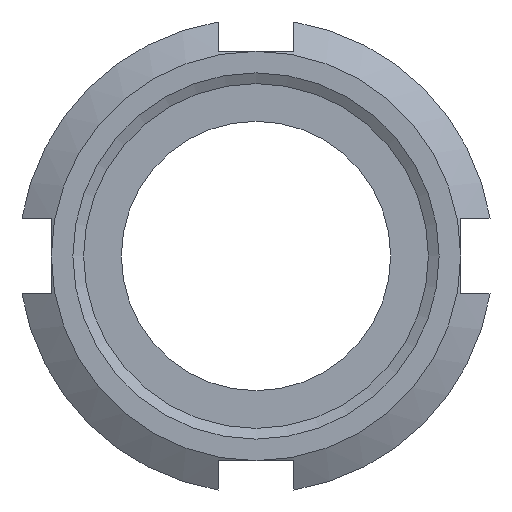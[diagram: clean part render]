
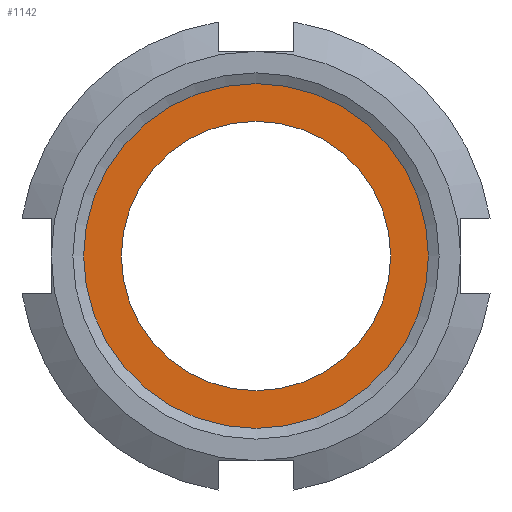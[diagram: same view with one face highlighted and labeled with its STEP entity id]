
A CAD part, front view. The second image highlights one B-rep face of the part: STEP entity #1142.
In plain terms, the highlighted planar face has unit normal (0, -1, 0).
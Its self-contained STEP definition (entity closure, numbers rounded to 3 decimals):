
#1108=CARTESIAN_POINT('',(16.,1.,0.0));
#1109=VERTEX_POINT('',#1108);
#1110=CARTESIAN_POINT('',(0.0,1.,0.0));
#1111=DIRECTION('',(0.0,-1.0,0.0));
#1112=DIRECTION('',(1.0,0.0,0.0));
#1113=AXIS2_PLACEMENT_3D('',#1110,#1111,#1112);
#1114=CIRCLE('',#1113,16.);
#1115=EDGE_CURVE('',#1109,#1109,#1114,.T.);
#1123=CARTESIAN_POINT('',(14.25,1.,0.0));
#1124=DIRECTION('',(0.0,-1.0,0.0));
#1125=DIRECTION('',(0.0,0.0,-1.0));
#1126=AXIS2_PLACEMENT_3D('',#1123,#1124,#1125);
#1127=PLANE('',#1126);
#1128=ORIENTED_EDGE('',*,*,#1115,.T.);
#1129=EDGE_LOOP('',(#1128));
#1130=FACE_OUTER_BOUND('',#1129,.T.);
#1131=CARTESIAN_POINT('',(12.5,1.,0.0));
#1132=VERTEX_POINT('',#1131);
#1133=CARTESIAN_POINT('',(0.0,1.,0.0));
#1134=DIRECTION('',(0.0,-1.0,0.0));
#1135=DIRECTION('',(1.0,0.0,0.0));
#1136=AXIS2_PLACEMENT_3D('',#1133,#1134,#1135);
#1137=CIRCLE('',#1136,12.5);
#1138=EDGE_CURVE('',#1132,#1132,#1137,.T.);
#1139=ORIENTED_EDGE('',*,*,#1138,.F.);
#1140=EDGE_LOOP('',(#1139));
#1141=FACE_BOUND('',#1140,.T.);
#1142=ADVANCED_FACE('',(#1130,#1141),#1127,.T.);
